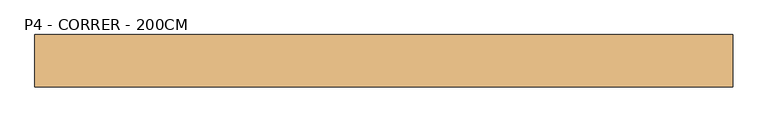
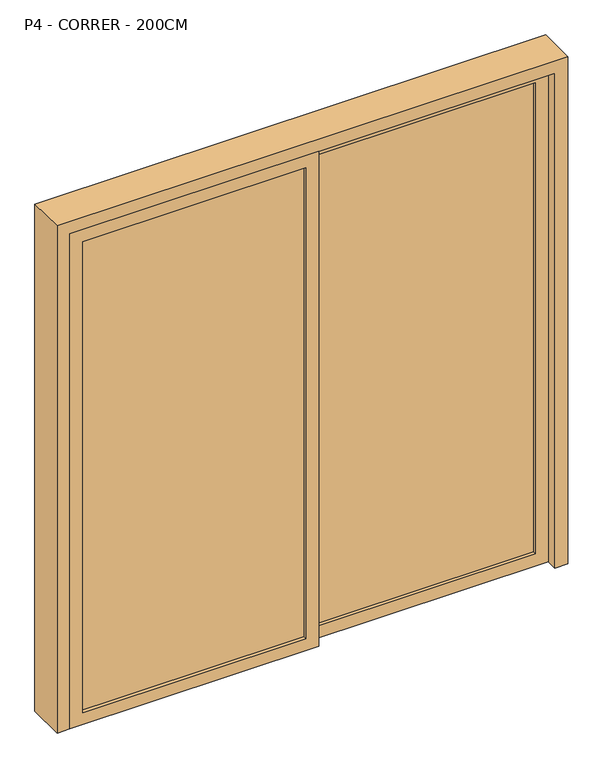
"""IFC4 building model written with IfcOpenShell, lengths in millimetres: door geometry, Porta de correr dupla envidraçada sem revestimento : P4 - CORRER - 200CM."""

from ifc_helpers import new_model, si_unit, point, frame, frame_2d, origin, place, context, project, spatial, polyline, circle_curve, trimmed, segment, composite_curve, outline, extrude, source, transform, mapped, element, save


def p4_correr_200cm_eaaa0877(model_context):
    return source(origin(), model_context, "Body", "SweptSolid", [
        extrude(outline(composite_curve([segment(trimmed(circle_curve(frame_2d((990.0, -10.0)), 10.0), [point((1000.0, -10.0))], [point((990.0, -20.0))], False, "CARTESIAN"), True, "CONTINUOUS"), segment(polyline([(990.0, -20.0), (810.0, -20.0)]), True, "CONTINUOUS"), segment(trimmed(circle_curve(frame_2d((810.0, -10.0)), 10.0), [point((810.0, -20.0))], [point((800.0, -10.0))], False, "CARTESIAN"), True, "CONTINUOUS"), segment(polyline([(800.0, -10.0), (800.0, 10.0)]), True, "CONTINUOUS"), segment(trimmed(circle_curve(frame_2d((810.0, 10.0)), 10.0), [point((800.0, 10.0))], [point((810.0, 20.0))], False, "CARTESIAN"), True, "CONTINUOUS"), segment(polyline([(810.0, 20.0), (990.0, 20.0)]), True, "CONTINUOUS"), segment(trimmed(circle_curve(frame_2d((990.0, 10.0)), 10.0), [point((990.0, 20.0))], [point((1000.0, 10.0))], False, "CARTESIAN"), True, "CONTINUOUS"), segment(polyline([(1000.0, 10.0), (1000.0, -10.0)]), True, "CONTINUOUS")], self_intersect=False), holes=[composite_curve([segment(trimmed(circle_curve(frame_2d((985.0, 0.0)), 5.0), [point((985.0, -5.0))], [point((985.0, 5.0))], True, "CARTESIAN"), True, "CONTINUOUS"), segment(trimmed(circle_curve(frame_2d((985.0, 0.0)), 5.0), [point((985.0, 5.0))], [point((985.0, -5.0))], True, "CARTESIAN"), True, "CONTINUOUS")], self_intersect=False), composite_curve([segment(trimmed(circle_curve(frame_2d((815.0, 0.0)), 5.0), [point((815.0, -5.0))], [point((815.0, 5.0))], True, "CARTESIAN"), True, "CONTINUOUS"), segment(trimmed(circle_curve(frame_2d((815.0, 0.0)), 5.0), [point((815.0, 5.0))], [point((815.0, -5.0))], True, "CARTESIAN"), True, "CONTINUOUS")], self_intersect=False), composite_curve([segment(polyline([(960.0, -10.0), (960.0, 10.0)]), True, "CONTINUOUS"), segment(trimmed(circle_curve(frame_2d((955.0, 10.0)), 5.0), [point((960.0, 10.0))], [point((955.0, 15.0))], True, "CARTESIAN"), True, "CONTINUOUS"), segment(polyline([(955.0, 15.0), (845.0, 15.0)]), True, "CONTINUOUS"), segment(trimmed(circle_curve(frame_2d((845.0, 10.0)), 5.0), [point((845.0, 15.0))], [point((840.0, 10.0))], True, "CARTESIAN"), True, "CONTINUOUS"), segment(polyline([(840.0, 10.0), (840.0, -10.0)]), True, "CONTINUOUS"), segment(trimmed(circle_curve(frame_2d((845.0, -10.0)), 5.0), [point((840.0, -10.0))], [point((845.0, -15.0))], True, "CARTESIAN"), True, "CONTINUOUS"), segment(polyline([(845.0, -15.0), (955.0, -15.0)]), True, "CONTINUOUS"), segment(trimmed(circle_curve(frame_2d((955.0, -10.0)), 5.0), [point((955.0, -15.0))], [point((960.0, -10.0))], True, "CARTESIAN"), True, "CONTINUOUS")], self_intersect=False)]), frame((0.0, 10.0, 0.0), z_axis=(0.0, 1.0, 0.0), x_axis=(0.0, 0.0, 1.0)), (0.0, 0.0, 1.0), 3.0),
        extrude(outline(polyline([(2050.0, -950.0), (0.0, -950.0), (0.0, 25.0), (2050.0, 25.0), (2050.0, -950.0)]), holes=[polyline([(2000.0, -25.0), (50.0, -25.0), (50.0, -900.0), (2000.0, -900.0), (2000.0, -25.0)])]), frame((0.0, -75.0, 0.0), z_axis=(0.0, 1.0, 0.0), x_axis=(0.0, 0.0, 1.0)), (0.0, 0.0, 1.0), 40.0),
        extrude(outline(polyline([(2050.0, -25.0), (0.0, -25.0), (0.0, 950.0), (2050.0, 950.0), (2050.0, -25.0)]), holes=[polyline([(2000.0, 900.0), (50.0, 900.0), (50.0, 25.0), (2000.0, 25.0), (2000.0, 900.0)])]), frame((0.0, -30.0, 0.0), z_axis=(0.0, 1.0, 0.0), x_axis=(0.0, 0.0, 1.0)), (0.0, 0.0, 1.0), 40.0),
        extrude(outline(polyline([(0.0, 950.0), (0.0, 1000.0), (2100.0, 1000.0), (2100.0, -1000.0), (0.0, -1000.0), (0.0, -950.0), (2050.0, -950.0), (2050.0, 950.0), (0.0, 950.0)])), frame((0.0, -75.0, 0.0), z_axis=(0.0, 1.0, 0.0), x_axis=(0.0, 0.0, 1.0)), (0.0, 0.0, 1.0), 150.0),
        extrude(outline(polyline([(-25.0, -48.0), (-25.0, -62.0), (-900.0, -62.0), (-900.0, -48.0), (-25.0, -48.0)])), frame((0.0, 0.0, 50.0), z_axis=(0.0, 0.0, 1.0), x_axis=(1.0, 0.0, 0.0)), (0.0, 0.0, 1.0), 1950.0),
        extrude(outline(polyline([(900.0, -3.0), (900.0, -17.0), (25.0, -17.0), (25.0, -3.0), (900.0, -3.0)])), frame((0.0, 0.0, 50.0), z_axis=(0.0, 0.0, 1.0), x_axis=(1.0, 0.0, 0.0)), (0.0, 0.0, 1.0), 1950.0),
        extrude(outline(polyline([(-900.0, -48.0), (-25.0, -48.0), (-25.0, -62.0), (-900.0, -62.0), (-900.0, -48.0)])), frame((0.0, 0.0, 50.0), z_axis=(0.0, 0.0, 1.0), x_axis=(1.0, 0.0, 0.0)), (0.0, 0.0, 1.0), 1950.0),
        extrude(outline(polyline([(900.0, -3.0), (900.0, -17.0), (25.0, -17.0), (25.0, -3.0), (900.0, -3.0)])), frame((0.0, 0.0, 50.0), z_axis=(0.0, 0.0, 1.0), x_axis=(1.0, 0.0, 0.0)), (0.0, 0.0, 1.0), 1950.0),
    ])


if __name__ == "__main__":
    model = new_model("IFC4")
    model_context = context("Model", 3, world=origin())
    ifc_project = project(units=[si_unit("LENGTHUNIT", "METRE", prefix="MILLI")], contexts=[model_context])
    site = spatial("IfcSite", under=ifc_project)
    building = spatial("IfcBuilding", under=site)
    placement = place(None, origin())
    p4_correr_200cm_shape = p4_correr_200cm_eaaa0877(model_context)
    element("IfcDoor", 1, ObjectType="Porta de correr dupla envidraçada sem revestimento : P4 - CORRER - 200CM", at=placement, inside=building, context=model_context, shape_type="MappedRepresentation", body=[
        mapped(p4_correr_200cm_shape, transform((0.0, 0.0, 0.0), x_axis=(1.0, 0.0, 0.0), y_axis=(0.0, 1.0, 0.0), z_axis=(0.0, 0.0, 1.0))),
    ])
    save(model, "model.ifc")
